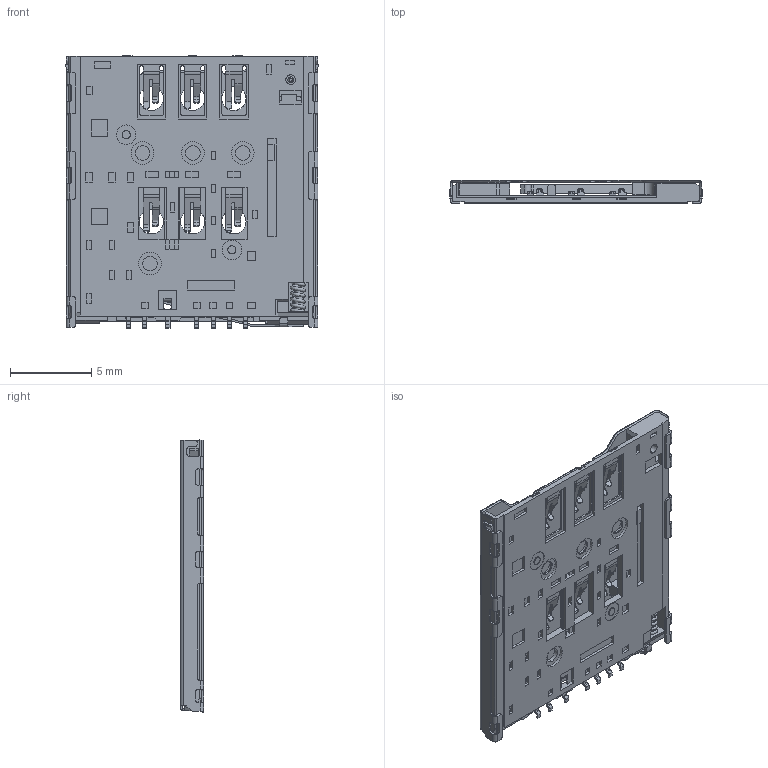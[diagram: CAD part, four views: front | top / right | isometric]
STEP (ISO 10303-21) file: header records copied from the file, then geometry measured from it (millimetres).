
FILE_DESCRIPTION (( 'STEP AP214' ), '1' );
FILE_NAME ('SIM7155-6-1-14-A_revA1.STEP', '2022-12-06T02:24:34', ( '' ), ( '' ), 'SwSTEP 2.0', 'SolidWorks 2021', '' );
FILE_SCHEMA (( 'AUTOMOTIVE_DESIGN' ));
Length unit declared in the file: millimetre
Products named in the file (2): SIM7155_A1_ass; SIM7155-6-1-14-A_revA1
Assembly tree (1 placements, depth 2):
  SIM7155-6-1-14-A_revA1
    SIM7155_A1_ass
Bounding box: 15.56 x 1.43 x 16.77 mm (x, y, z)
Volume: 141.4 mm3; surface area: 1254.8 mm2
Topology: 2 solids, 5 shells, 1740 faces, 4702 edges, 3044 vertices
Faces by surface type: plane 1065, cylinder 499, bspline 164, cone 12
Entity records: 78528 total; most frequent: CARTESIAN_POINT 21775, ORIENTED_EDGE 9404, DIRECTION 7395, EDGE_CURVE 4702, VECTOR 3237, LINE 3237, VERTEX_POINT 3044, AXIS2_PLACEMENT_3D 2079
